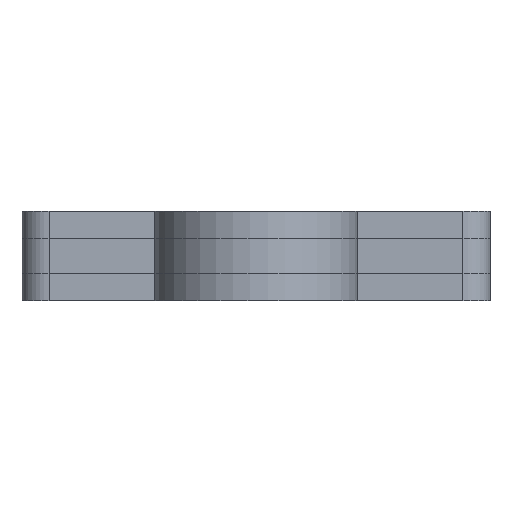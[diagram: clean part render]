
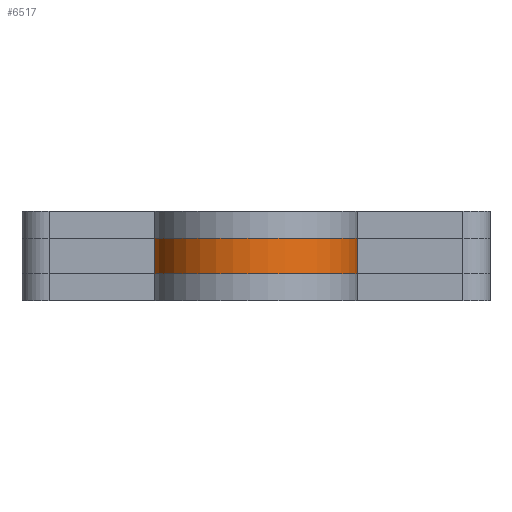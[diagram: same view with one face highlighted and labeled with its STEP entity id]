
A CAD part, left-side view. The second image highlights one B-rep face of the part: STEP entity #6517.
In plain terms, the highlighted cylindrical face has radius 3 mm (diameter 6 mm), a partial arc.
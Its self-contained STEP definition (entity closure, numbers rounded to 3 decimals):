
#629 = CYLINDRICAL_SURFACE('',#630,3.);
#630 = AXIS2_PLACEMENT_3D('',#631,#632,#633);
#631 = CARTESIAN_POINT('',(-11.5,-13.238,-6.025));
#632 = DIRECTION('',(0.,0.,1.));
#633 = DIRECTION('',(-0.993,-0.116,0.));
#1749 = VERTEX_POINT('',#1750);
#1750 = CARTESIAN_POINT('',(-8.75,-14.437,-5.9));
#1785 = PLANE('',#1786);
#1786 = AXIS2_PLACEMENT_3D('',#1787,#1788,#1789);
#1787 = CARTESIAN_POINT('',(-8.75,-19.338,-6.35));
#1788 = DIRECTION('',(-1.,0.,0.));
#1789 = DIRECTION('',(0.,1.,0.));
#1802 = VERTEX_POINT('',#1803);
#1803 = CARTESIAN_POINT('',(-9.1,-11.438,-5.9));
#1824 = EDGE_CURVE('',#1802,#1749,#1825,.T.);
#1825 = SURFACE_CURVE('',#1826,(#1831,#1838),.PCURVE_S1.);
#1826 = CIRCLE('',#1827,3.);
#1827 = AXIS2_PLACEMENT_3D('',#1828,#1829,#1830);
#1828 = CARTESIAN_POINT('',(-11.5,-13.238,-5.9));
#1829 = DIRECTION('',(0.,0.,1.));
#1830 = DIRECTION('',(1.,0.,-0.));
#1831 = PCURVE('',#629,#1832);
#1832 = DEFINITIONAL_REPRESENTATION('',(#1833),#1837);
#1833 = LINE('',#1834,#1835);
#1834 = CARTESIAN_POINT('',(-3.258,0.125));
#1835 = VECTOR('',#1836,1.);
#1836 = DIRECTION('',(1.,0.));
#1837 = ( GEOMETRIC_REPRESENTATION_CONTEXT(2) 
PARAMETRIC_REPRESENTATION_CONTEXT() REPRESENTATION_CONTEXT('2D SPACE',''
  ) );
#1838 = PCURVE('',#1839,#1844);
#1839 = CYLINDRICAL_SURFACE('',#1840,3.);
#1840 = AXIS2_PLACEMENT_3D('',#1841,#1842,#1843);
#1841 = CARTESIAN_POINT('',(-11.5,-13.238,-6.025));
#1842 = DIRECTION('',(0.,0.,1.));
#1843 = DIRECTION('',(-0.993,-0.116,0.));
#1844 = DEFINITIONAL_REPRESENTATION('',(#1845),#1849);
#1845 = LINE('',#1846,#1847);
#1846 = CARTESIAN_POINT('',(-3.258,0.125));
#1847 = VECTOR('',#1848,1.);
#1848 = DIRECTION('',(1.,0.));
#1849 = ( GEOMETRIC_REPRESENTATION_CONTEXT(2) 
PARAMETRIC_REPRESENTATION_CONTEXT() REPRESENTATION_CONTEXT('2D SPACE',''
  ) );
#1873 = PLANE('',#1874);
#1874 = AXIS2_PLACEMENT_3D('',#1875,#1876,#1877);
#1875 = CARTESIAN_POINT('',(-9.1,-12.25,-6.025));
#1876 = DIRECTION('',(1.,0.,0.));
#1877 = DIRECTION('',(0.,0.,-1.));
#6468 = EDGE_CURVE('',#1749,#6469,#6471,.T.);
#6469 = VERTEX_POINT('',#6470);
#6470 = CARTESIAN_POINT('',(-8.75,-14.437,-6.95));
#6471 = SURFACE_CURVE('',#6472,(#6476,#6483),.PCURVE_S1.);
#6472 = LINE('',#6473,#6474);
#6473 = CARTESIAN_POINT('',(-8.75,-14.437,-6.025));
#6474 = VECTOR('',#6475,1.);
#6475 = DIRECTION('',(0.,0.,-1.));
#6476 = PCURVE('',#1785,#6477);
#6477 = DEFINITIONAL_REPRESENTATION('',(#6478),#6482);
#6478 = LINE('',#6479,#6480);
#6479 = CARTESIAN_POINT('',(4.901,-0.325));
#6480 = VECTOR('',#6481,1.);
#6481 = DIRECTION('',(0.,1.));
#6482 = ( GEOMETRIC_REPRESENTATION_CONTEXT(2) 
PARAMETRIC_REPRESENTATION_CONTEXT() REPRESENTATION_CONTEXT('2D SPACE',''
  ) );
#6483 = PCURVE('',#1839,#6484);
#6484 = DEFINITIONAL_REPRESENTATION('',(#6485),#6489);
#6485 = LINE('',#6486,#6487);
#6486 = CARTESIAN_POINT('',(2.614,0.));
#6487 = VECTOR('',#6488,1.);
#6488 = DIRECTION('',(0.,-1.));
#6489 = ( GEOMETRIC_REPRESENTATION_CONTEXT(2) 
PARAMETRIC_REPRESENTATION_CONTEXT() REPRESENTATION_CONTEXT('2D SPACE',''
  ) );
#6517 = ADVANCED_FACE('',(#6518),#1839,.T.);
#6518 = FACE_BOUND('',#6519,.T.);
#6519 = EDGE_LOOP('',(#6520,#6543,#6570,#6571));
#6520 = ORIENTED_EDGE('',*,*,#6521,.F.);
#6521 = EDGE_CURVE('',#6522,#1802,#6524,.T.);
#6522 = VERTEX_POINT('',#6523);
#6523 = CARTESIAN_POINT('',(-9.1,-11.438,-6.95));
#6524 = SURFACE_CURVE('',#6525,(#6529,#6536),.PCURVE_S1.);
#6525 = LINE('',#6526,#6527);
#6526 = CARTESIAN_POINT('',(-9.1,-11.438,-6.025));
#6527 = VECTOR('',#6528,1.);
#6528 = DIRECTION('',(0.,0.,1.));
#6529 = PCURVE('',#1839,#6530);
#6530 = DEFINITIONAL_REPRESENTATION('',(#6531),#6535);
#6531 = LINE('',#6532,#6533);
#6532 = CARTESIAN_POINT('',(-2.614,0.));
#6533 = VECTOR('',#6534,1.);
#6534 = DIRECTION('',(0.,1.));
#6535 = ( GEOMETRIC_REPRESENTATION_CONTEXT(2) 
PARAMETRIC_REPRESENTATION_CONTEXT() REPRESENTATION_CONTEXT('2D SPACE',''
  ) );
#6536 = PCURVE('',#1873,#6537);
#6537 = DEFINITIONAL_REPRESENTATION('',(#6538),#6542);
#6538 = LINE('',#6539,#6540);
#6539 = CARTESIAN_POINT('',(0.,0.812));
#6540 = VECTOR('',#6541,1.);
#6541 = DIRECTION('',(-1.,0.));
#6542 = ( GEOMETRIC_REPRESENTATION_CONTEXT(2) 
PARAMETRIC_REPRESENTATION_CONTEXT() REPRESENTATION_CONTEXT('2D SPACE',''
  ) );
#6543 = ORIENTED_EDGE('',*,*,#6544,.F.);
#6544 = EDGE_CURVE('',#6469,#6522,#6545,.T.);
#6545 = SURFACE_CURVE('',#6546,(#6551,#6558),.PCURVE_S1.);
#6546 = CIRCLE('',#6547,3.);
#6547 = AXIS2_PLACEMENT_3D('',#6548,#6549,#6550);
#6548 = CARTESIAN_POINT('',(-11.5,-13.238,-6.95));
#6549 = DIRECTION('',(0.,0.,-1.));
#6550 = DIRECTION('',(1.,0.,0.));
#6551 = PCURVE('',#1839,#6552);
#6552 = DEFINITIONAL_REPRESENTATION('',(#6553),#6557);
#6553 = LINE('',#6554,#6555);
#6554 = CARTESIAN_POINT('',(3.025,-0.925));
#6555 = VECTOR('',#6556,1.);
#6556 = DIRECTION('',(-1.,0.));
#6557 = ( GEOMETRIC_REPRESENTATION_CONTEXT(2) 
PARAMETRIC_REPRESENTATION_CONTEXT() REPRESENTATION_CONTEXT('2D SPACE',''
  ) );
#6558 = PCURVE('',#6559,#6564);
#6559 = CYLINDRICAL_SURFACE('',#6560,3.);
#6560 = AXIS2_PLACEMENT_3D('',#6561,#6562,#6563);
#6561 = CARTESIAN_POINT('',(-11.5,-13.238,-6.825));
#6562 = DIRECTION('',(0.,0.,1.));
#6563 = DIRECTION('',(-0.993,-0.116,0.));
#6564 = DEFINITIONAL_REPRESENTATION('',(#6565),#6569);
#6565 = LINE('',#6566,#6567);
#6566 = CARTESIAN_POINT('',(3.025,-0.125));
#6567 = VECTOR('',#6568,1.);
#6568 = DIRECTION('',(-1.,0.));
#6569 = ( GEOMETRIC_REPRESENTATION_CONTEXT(2) 
PARAMETRIC_REPRESENTATION_CONTEXT() REPRESENTATION_CONTEXT('2D SPACE',''
  ) );
#6570 = ORIENTED_EDGE('',*,*,#6468,.F.);
#6571 = ORIENTED_EDGE('',*,*,#1824,.F.);
